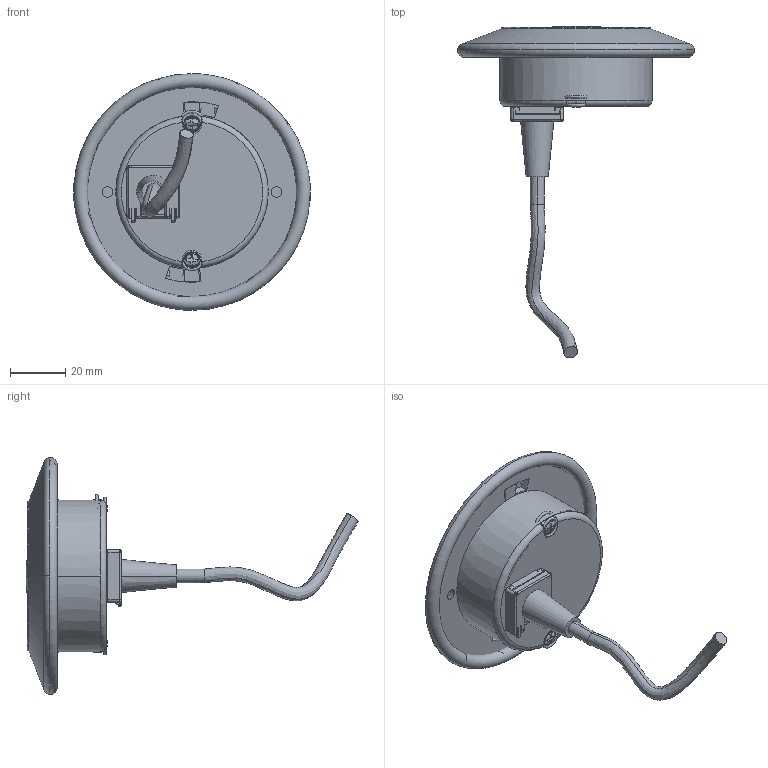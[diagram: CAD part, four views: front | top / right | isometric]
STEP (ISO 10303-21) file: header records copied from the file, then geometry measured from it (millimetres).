
FILE_DESCRIPTION((''),'2;1');
FILE_NAME('HR_ASM','2014-06-03T',('user'),(''),'PRO/ENGINEER BY PARAMETRIC TECHNOLOGY CORPORATION, 2008090','PRO/ENGINEER BY PARAMETRIC TECHNOLOGY CORPORATION, 2008090','');
FILE_SCHEMA(('CONFIG_CONTROL_DESIGN'));
Products named in the file (1): HR_ASM
Bounding box: 85.42 x 119.88 x 85.42 mm (x, y, z)
Surface area: 43654.5 mm2 (no closed solid volume)
Topology: 0 solids, 0 shells, 566 faces, 3150 edges, 3095 vertices
Faces by surface type: bspline 490, torus 54, sphere 22
Entity records: 49935 total; most frequent: CARTESIAN_POINT 22325, DIRECTION 4533, TRIMMED_CURVE 3734, VECTOR 3087, LINE 3087, DEFINITIONAL_REPRESENTATION 3058, PCURVE 3058, COMPOSITE_CURVE_SEGMENT 3058
